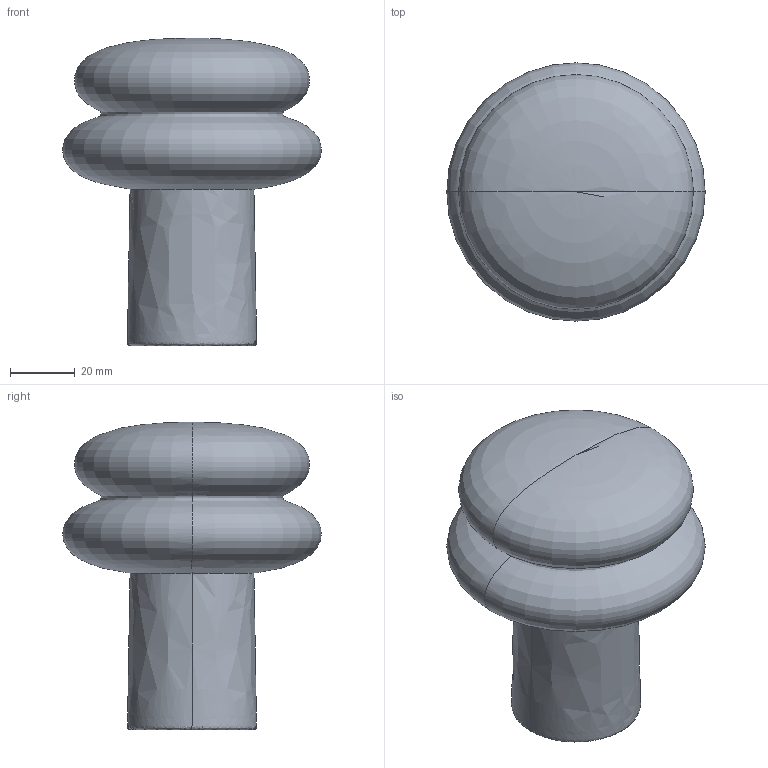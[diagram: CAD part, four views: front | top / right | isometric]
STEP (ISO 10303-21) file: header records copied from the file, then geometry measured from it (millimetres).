
FILE_DESCRIPTION(/* description */ (''),/* implementation_level */ '2;1');
FILE_NAME(/* name */ 'ILKW_SNOWMAN8_Portable_3D',/* time_stamp */ '2026-08-25T17:38:26+09:00',/* author */ (''),/* organization */ (''),/* preprocessor_version */ 'ST-DEVELOPER v19.2',/* originating_system */ 'Rhino 8.21',/* authorisation */ '');
FILE_SCHEMA (('CONFIG_CONTROL_DESIGN'));
Length unit declared in the file: millimetre
Products named in the file (1): Document
Bounding box: 79.99 x 80 x 95.23 mm (x, y, z)
Volume: 229743.4 mm3; surface area: 24570 mm2
Topology: 1 solids, 1 shells, 5 faces, 10 edges, 5 vertices
Faces by surface type: bspline 4, plane 1
Entity records: 695 total; most frequent: CARTESIAN_POINT 536, ORIENTED_EDGE 16, DIRECTION 13, EDGE_CURVE 8, ORGANIZATION 7, PERSON_AND_ORGANIZATION 7, AXIS2_PLACEMENT_3D 7, ADVANCED_FACE 5
